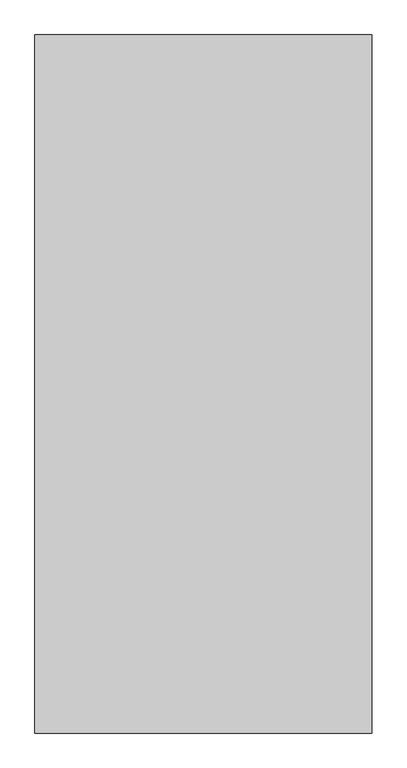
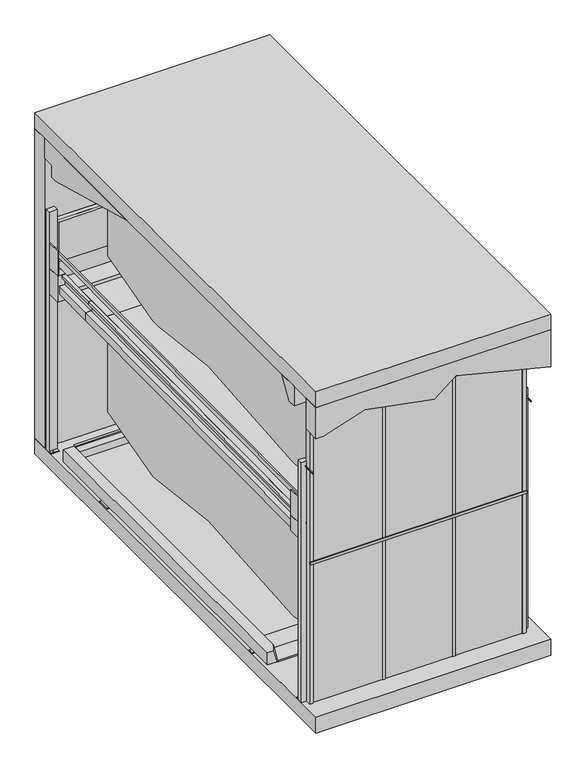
"""IFC4 building model written with IfcOpenShell, lengths in millimetres: proxy geometry, TrendVario 6200+ : TrendVario 6200+."""

from ifc_helpers import new_model, si_unit, point, frame, frame_2d, origin, origin_with_axes, place, context, project, spatial, polyline, circle_curve, trimmed, segment, composite_curve, outline, extrude, faceted_brep, source, transform, mapped, element, save
from ifc_brep_helpers import plane_surface, cylinder_surface, spline_surface, advanced_brep


def generic_models_85d4ead2(model_context):
    return source(origin(), model_context, "Body", "SolidModel", [
        extrude(outline(composite_curve([segment(trimmed(circle_curve(frame_2d((2650.0, 5300.0602659)), 6.0), [point((2650.0, 5294.0602659))], [point((2650.0, 5306.0602659))], False, "CARTESIAN"), True, "CONTINUOUS"), segment(trimmed(circle_curve(frame_2d((2650.0, 5300.0602659)), 6.0), [point((2650.0, 5306.0602659))], [point((2650.0, 5294.0602659))], False, "CARTESIAN"), True, "CONTINUOUS")], self_intersect=False)), frame((0.0, 0.0, -150.0), z_axis=(0.0, 0.0, 1.0), x_axis=(1.0, 0.0, 0.0)), (0.0, 0.0, 1.0), 150.0),
        extrude(outline(composite_curve([segment(trimmed(circle_curve(frame_2d((50.0, 5300.0602653)), 6.0), [point((44.0, 5300.0602653))], [point((56.0, 5300.0602653))], False, "CARTESIAN"), True, "CONTINUOUS"), segment(trimmed(circle_curve(frame_2d((50.0, 5300.0602653)), 6.0), [point((56.0, 5300.0602653))], [point((44.0, 5300.0602653))], False, "CARTESIAN"), True, "CONTINUOUS")], self_intersect=False)), frame((0.0, 0.0, -150.0), z_axis=(0.0, 0.0, 1.0), x_axis=(1.0, 0.0, 0.0)), (0.0, 0.0, 1.0), 150.0),
        extrude(outline(composite_curve([segment(trimmed(circle_curve(frame_2d((2650.0, 170.0)), 6.0), [point((2650.0, 164.0))], [point((2650.0, 176.0))], False, "CARTESIAN"), True, "CONTINUOUS"), segment(trimmed(circle_curve(frame_2d((2650.0, 170.0)), 6.0), [point((2650.0, 176.0))], [point((2650.0, 164.0))], False, "CARTESIAN"), True, "CONTINUOUS")], self_intersect=False)), frame((0.0, 0.0, -150.0), z_axis=(0.0, 0.0, 1.0), x_axis=(1.0, 0.0, 0.0)), (0.0, 0.0, 1.0), 150.0),
        extrude(outline(composite_curve([segment(trimmed(circle_curve(frame_2d((50.0, 170.0)), 6.0), [point((44.0, 170.0))], [point((56.0, 170.0))], False, "CARTESIAN"), True, "CONTINUOUS"), segment(trimmed(circle_curve(frame_2d((50.0, 170.0)), 6.0), [point((56.0, 170.0))], [point((44.0, 170.0))], False, "CARTESIAN"), True, "CONTINUOUS")], self_intersect=False)), frame((0.0, 0.0, -150.0), z_axis=(0.0, 0.0, 1.0), x_axis=(1.0, 0.0, 0.0)), (0.0, 0.0, 1.0), 150.0),
        extrude(outline(composite_curve([segment(trimmed(circle_curve(frame_2d((2965.0, 2650.0)), 6.0), [point((2965.0, 2644.0))], [point((2965.0, 2656.0))], False, "CARTESIAN"), True, "CONTINUOUS"), segment(trimmed(circle_curve(frame_2d((2965.0, 2650.0)), 6.0), [point((2965.0, 2656.0))], [point((2965.0, 2644.0))], False, "CARTESIAN"), True, "CONTINUOUS")], self_intersect=False)), frame((0.0, -50.0, 0.0), z_axis=(0.0, 1.0, 0.0), x_axis=(0.0, 0.0, 1.0)), (0.0, 0.0, 1.0), 150.0),
        extrude(outline(composite_curve([segment(trimmed(circle_curve(frame_2d((2965.0, 50.0)), 6.0), [point((2965.0, 44.0))], [point((2965.0, 56.0))], False, "CARTESIAN"), True, "CONTINUOUS"), segment(trimmed(circle_curve(frame_2d((2965.0, 50.0)), 6.0), [point((2965.0, 56.0))], [point((2965.0, 44.0))], False, "CARTESIAN"), True, "CONTINUOUS")], self_intersect=False)), frame((0.0, -50.0, 0.0), z_axis=(0.0, 1.0, 0.0), x_axis=(0.0, 0.0, 1.0)), (0.0, 0.0, 1.0), 150.0),
        extrude(outline(composite_curve([segment(trimmed(circle_curve(frame_2d((2965.0, 50.0)), 6.0), [point((2965.0, 44.0))], [point((2965.0, 56.0))], False, "CARTESIAN"), True, "CONTINUOUS"), segment(trimmed(circle_curve(frame_2d((2965.0, 50.0)), 6.0), [point((2965.0, 56.0))], [point((2965.0, 44.0))], False, "CARTESIAN"), True, "CONTINUOUS")], self_intersect=False)), frame((0.0, 5369.5816653, 0.0), z_axis=(0.0, 1.0, 0.0), x_axis=(0.0, 0.0, 1.0)), (0.0, 0.0, 1.0), 150.0),
        extrude(outline(composite_curve([segment(trimmed(circle_curve(frame_2d((2965.0, 2650.0)), 6.0), [point((2965.0, 2644.0))], [point((2965.0, 2656.0))], False, "CARTESIAN"), True, "CONTINUOUS"), segment(trimmed(circle_curve(frame_2d((2965.0, 2650.0)), 6.0), [point((2965.0, 2656.0))], [point((2965.0, 2644.0))], False, "CARTESIAN"), True, "CONTINUOUS")], self_intersect=False)), frame((0.0, 5369.6045102, 0.0), z_axis=(0.0, 1.0, 0.0), x_axis=(0.0, 0.0, 1.0)), (0.0, 0.0, 1.0), 150.0),
        extrude(outline(polyline([(0.0, -60.0), (0.0, 0.0), (4430.0, 0.0), (4430.0, -60.0), (0.0, -60.0)])), frame((2611.0, 171.9869847, 2038.264563), z_axis=(0.0, -0.008726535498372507, 0.9999619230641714), x_axis=(0.0, 0.9999619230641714, 0.008726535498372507)), (0.0, 0.0, 1.0), 100.0),
        extrude(outline(polyline([(0.0, -19.0), (0.0, 0.0), (4440.0, 0.0), (4440.0, -19.0), (0.0, -19.0)])), frame((2663.0, 167.9116926, 2505.246781), z_axis=(0.0, -0.008726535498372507, 0.9999619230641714), x_axis=(0.0, 0.9999619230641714, 0.008726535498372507)), (0.0, 0.0, 1.0), 56.0),
        faceted_brep([(2600.0, 4599.8286538, 2304.9144337), (2643.0, 4599.8286538, 2304.9144337), (2643.0, 4600.0904499, 2274.915576), (2640.0, 4600.0904499, 2274.915576), (2640.0, 4599.8548334, 2301.9145479), (2603.0, 4599.8548334, 2301.9145479), (2603.0, 4602.6211451, 1984.9266183), (2548.0, 4602.6211451, 1984.9266183), (2548.0, 4602.210998, 2031.9248287), (2511.0, 4602.210998, 2031.9248287), (2511.0, 4602.1848184, 2034.9247145), (2551.0, 4602.1848184, 2034.9247145), (2551.0, 4602.5949655, 1987.9265041), (2600.0, 4602.5949655, 1987.9265041), (2603.0, 102.7924914, 1945.6572086), (2603.0, 100.0261796, 2262.6451382), (2640.0, 100.0261796, 2262.6451382), (2640.0, 100.2617961, 2235.6461663), (2643.0, 100.2617961, 2235.6461663), (2643.0, 100.0, 2265.645024), (2600.0, 100.0, 2265.645024), (2600.0, 102.7924914, 1945.6572086), (2600.0, 202.7886837, 1946.5298621), (2548.0, 202.7886837, 1946.5298621), (2548.0, 202.3785365, 1993.5280725), (2511.0, 202.3785365, 1993.5280725), (2511.0, 202.3523569, 1996.5279583), (2551.0, 202.3523569, 1996.5279583), (2551.0, 202.7625041, 1949.5297479), (2600.0, 202.7625041, 1949.5297479)], [[[0, 1, 2, 3, 4, 5, 6, 7, 8, 9, 10, 11, 12, 13]], [[14, 15, 16, 17, 18, 19, 20, 21]], [[1, 0, 20, 19]], [[2, 1, 19, 18]], [[3, 2, 18, 17]], [[4, 3, 17, 16]], [[5, 4, 16, 15]], [[6, 5, 15, 14]], [[7, 6, 14, 21, 22, 23]], [[8, 7, 23, 24]], [[9, 8, 24, 25]], [[10, 9, 25, 26]], [[11, 10, 26, 27]], [[12, 11, 27, 28]], [[13, 12, 28, 29]], [[0, 13, 29, 22, 21, 20]], [[22, 29, 28, 27, 26, 25, 24, 23]]]),
        extrude(outline(polyline([(2133.867435, 0.0), (2133.867435, -1000.0), (-1962.132565, -1000.0), (-1962.132565, 0.0), (2133.867435, 0.0)])), frame((1600.0, 2468.3986345, 2016.3034445), z_axis=(0.0, -0.008726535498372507, 0.9999619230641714), x_axis=(0.0, 0.9999619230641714, 0.008726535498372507)), (0.0, 0.0, 1.0), 8.0),
        extrude(outline(polyline([(0.0, -1500.0), (0.0, 0.0), (769.9999999, 0.0), (769.9999999, -1500.0), (0.0, -1500.0)])), frame((100.0, 4602.1898877, 2034.9247587), z_axis=(0.0, -0.008726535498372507, 0.9999619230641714), x_axis=(0.0, 0.9999619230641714, 0.008726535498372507)), (0.0, 0.0, 1.0), 8.0),
        extrude(outline(polyline([(5133.7158509, 2091.5652956), (5371.7067886, 2093.642211), (5372.0907561, 2049.6438864), (5369.0908704, 2049.6177068), (5368.7330824, 2090.6161457), (5136.7419163, 2088.5915894), (5137.0997042, 2047.5931506), (5134.0998185, 2047.566971), (5133.7158509, 2091.5652956)])), frame((100.0, 0.0, 0.0), z_axis=(1.0, 0.0, 0.0), x_axis=(0.0, 1.0, 0.0)), (0.0, 0.0, 1.0), 1500.0),
        extrude(outline(polyline([(319.9999999, 0.0), (319.9999999, -43.0), (289.9999999, -43.0), (289.9999999, -40.0), (317.0, -40.0), (317.0, -3.0), (0.0, -3.0), (0.0, 52.0), (46.9999999, 52.0), (46.9999999, 89.0), (49.9999999, 89.0), (49.9999999, 49.0), (2.9999999, 49.0), (2.9999999, 0.0), (319.9999999, 0.0)])), frame((100.0, 4602.6262144, 1984.9266626), z_axis=(0.0, 0.9999619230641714, 0.008726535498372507), x_axis=(0.0, -0.008726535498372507, 0.9999619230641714)), (0.0, 0.0, 1.0), 770.0),
        extrude(outline(polyline([(200.0, 8.0), (200.0, 0.0), (100.0, 0.0), (100.0, 3025.0), (160.0, 3025.0), (160.0, 8.0), (200.0, 8.0)])), frame((0.0, 0.0, 0.0), z_axis=(1.0, 0.0, 0.0), x_axis=(0.0, 1.0, 0.0)), (0.0, 0.0, 1.0), 100.0),
        faceted_brep([(0.0, 5249.9885779, 3650.0), (2800.0, 5249.9885779, 3650.0), (2800.0, 5249.9885779, 3500.0), (0.0, 5249.9885779, 3500.0), (0.0, 5399.9657348, 3650.0), (2800.0, 5399.9657348, 3650.0), (2800.0, 5167.6820669, 3500.0), (2800.0, 3699.9673137, 3900.0057953), (0.0, 3699.9885779, 3900.0), (0.0, 5167.6820669, 3500.0), (2800.0, 5399.9657348, 3900.0), (0.0, 5399.9657348, 3900.0)], [[[0, 1, 2, 3]], [[1, 0, 4, 5]], [[6, 7, 8, 9]], [[10, 7, 6, 2, 1, 5]], [[8, 11, 4, 0, 3, 9]], [[11, 10, 5, 4]], [[7, 10, 11, 8]], [[2, 6, 9, 3]]]),
        extrude(outline(polyline([(3511.8273555, 0.0), (3511.8273555, 90.0080034), (3672.5161926, 584.5573919), (3511.8273555, 1411.229794), (3719.8801857, 1665.5456754), (3437.0289547, 2800.0), (3900.0, 2800.0), (3900.0, 0.0), (3511.8273555, 0.0)])), frame((0.0, -200.0, 0.0), z_axis=(0.0, 1.0, 0.0), x_axis=(0.0, 0.0, 1.0)), (0.0, 0.0, 1.0), 200.0),
        extrude(outline(polyline([(100.0, 45.0), (100.0, 55.0), (2600.0, 55.0), (2600.0, 45.0), (100.0, 45.0)])), origin_with_axes(), (0.0, 0.0, 1.0), 3526.0),
        extrude(outline(polyline([(1798.6666667, 44.0), (1798.6666667, 35.0), (1768.6666667, 35.0), (1768.6666667, 44.0), (1798.6666667, 44.0)])), origin_with_axes(), (0.0, 0.0, 1.0), 3526.0),
        extrude(outline(polyline([(964.3333333, 44.0), (964.3333333, 35.0), (934.3333333, 35.0), (934.3333333, 44.0), (964.3333333, 44.0)])), origin_with_axes(), (0.0, 0.0, 1.0), 3526.0),
        extrude(outline(polyline([(0.0, -19.0), (0.0, 0.0), (5147.1058324, 0.0), (5147.1058324, -19.0), (0.0, -19.0)])), frame((37.0, 5302.7546227, 2550.0578764), z_axis=(0.0, -0.008726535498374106, 0.9999619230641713), x_axis=(0.0, -0.9999619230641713, -0.008726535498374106)), (0.0, 0.0, 1.0), 56.0),
        extrude(outline(polyline([(18.0, 5142.5968952), (7.0, 5142.5968952), (7.0, 5312.5968952), (18.0, 5312.5968952), (18.0, 5142.5968952)])), frame((0.0, 0.0, 2319.0), z_axis=(0.0, 0.0, 1.0), x_axis=(1.0, 0.0, 0.0)), (0.0, 0.0, 1.0), 310.0),
        extrude(outline(polyline([(2682.0, 5142.0602659), (2682.0, 5312.0602659), (2693.0, 5312.0602659), (2693.0, 5142.0602659), (2682.0, 5142.0602659)])), frame((0.0, 0.0, 2319.0), z_axis=(0.0, 0.0, 1.0), x_axis=(1.0, 0.0, 0.0)), (0.0, 0.0, 1.0), 310.0),
        advanced_brep(
        [(2678.3930268, 838.0907234, 21.8284597), (2678.3930268, 838.0907234, 173.2797049), (2600.0, 838.0907234, 173.2797049), (2560.0, 838.0907234, 21.8284597), (2678.3930268, 5057.0907234, 21.8284597), (2550.0, 5057.0907234, 21.8284597), (2550.0, 5057.0907234, 173.2797049), (2678.3930268, 5057.0907234, 173.2797049), (2550.0, 938.0907234, 173.2797049), (2550.0, 848.0907234, 21.8284597)],
        [
            (0, 1),
            (1, 2),
            (2, 3),
            (3, 0),
            (4, 5),
            (5, 6),
            (6, 7),
            (7, 4),
            (0, 4),
            (7, 1),
            (6, 8),
            (8, 2),
            (5, 9),
            (9, 8),
            (3, 9),
        ],
        [
            plane_surface(frame((2550.0, 838.0907234, 0.0), z_axis=(0.0, -1.0, 0.0), x_axis=(0.0, 0.0, 1.0))),
            plane_surface(frame((2550.0, 5057.0907234, 0.0), z_axis=(0.0, 1.0, 0.0), x_axis=(0.0, 0.0, 1.0))),
            plane_surface(frame((2678.3930268, 838.0907234, 21.8284597), z_axis=(1.0, 0.0, 0.0), x_axis=(0.0, 1.0, 0.0))),
            plane_surface(frame((2678.3930268, 838.0907234, 173.2797049), z_axis=(0.0, 0.0, 1.0), x_axis=(0.0, 1.0, 0.0))),
            plane_surface(frame((2550.0, 838.0907234, 173.2797049), z_axis=(-1.0, 0.0, 0.0), x_axis=(0.0, 1.0, 0.0))),
            plane_surface(frame((2550.0, 838.0907234, 21.8284597), z_axis=(0.0, 0.0, -1.0), x_axis=(0.0, 1.0, 0.0))),
            spline_surface(1, 1, [[(2550.0, 938.0907234, 173.2797049), (2600.0, 838.0907234, 173.2797049)], [(2550.0, 848.0907234, 21.8284597), (2560.0, 838.0907234, 21.8284597)]], [2, 2], [2, 2], [0.0, 1.0], [0.0, 1.0]),
        ],
        [
            (0, [[1, 2, 3, 4]]),
            (1, [[5, 6, 7, 8]]),
            (2, [[-1, 9, -8, 10]]),
            (3, [[-7, 11, 12, -2, -10]]),
            (4, [[-6, 13, 14, -11]]),
            (5, [[-5, -9, -4, 15, -13]]),
            (6, [[-3, -12, -14, -15]]),
        ],
    ),
        advanced_brep(
        [(22.4384321, 838.0907234, 173.2797049), (22.4384321, 838.0907234, 20.8412855), (140.0, 838.0907234, 20.8412855), (100.0, 838.0907234, 173.2797049), (150.0, 5057.0907234, 20.8412855), (22.4384321, 5057.0907234, 20.8412855), (22.4384321, 5057.0907234, 173.2797049), (150.0, 5057.0907234, 173.2797049), (150.0, 938.0907234, 173.2797049), (150.0, 848.0907234, 20.8412855)],
        [
            (0, 1),
            (1, 2),
            (2, 3),
            (3, 0),
            (4, 5),
            (5, 6),
            (6, 7),
            (7, 4),
            (7, 8),
            (8, 9),
            (9, 4),
            (6, 0),
            (3, 8),
            (5, 1),
            (9, 2),
        ],
        [
            plane_surface(frame((150.0, 838.0907234, 20.8412855), z_axis=(0.0, -1.0, 0.0), x_axis=(0.0, 0.0, 1.0))),
            plane_surface(frame((150.0, 5057.0907234, 20.8412855), z_axis=(0.0, 1.0, 0.0), x_axis=(0.0, 0.0, -1.0))),
            plane_surface(frame((150.0, 838.0907234, 20.8412855), z_axis=(1.0, 0.0, 0.0), x_axis=(0.0, 1.0, 0.0))),
            plane_surface(frame((150.0, 838.0907234, 173.2797049), z_axis=(0.0, 0.0, 1.0), x_axis=(0.0, 1.0, 0.0))),
            plane_surface(frame((22.4384321, 838.0907234, 173.2797049), z_axis=(-1.0, 0.0, 0.0), x_axis=(0.0, 1.0, 0.0))),
            plane_surface(frame((22.4384321, 838.0907234, 20.8412855), z_axis=(0.0, 0.0, -1.0), x_axis=(0.0, 1.0, 0.0))),
            spline_surface(1, 1, [[(150.0, 848.0907234, 20.8412855), (140.0, 838.0907234, 20.8412855)], [(150.0, 938.0907234, 173.2797049), (100.0, 838.0907234, 173.2797049)]], [2, 2], [2, 2], [0.0, 1.0], [0.0, 1.0]),
        ],
        [
            (0, [[1, 2, 3, 4]]),
            (1, [[5, 6, 7, 8]]),
            (2, [[-8, 9, 10, 11]]),
            (3, [[-7, 12, -4, 13, -9]]),
            (4, [[-1, -12, -6, 14]]),
            (5, [[-5, -11, 15, -2, -14]]),
            (6, [[-3, -15, -10, -13]]),
        ],
    ),
        extrude(outline(polyline([(5369.6045102, 0.0), (5270.0602659, 0.0), (5270.0602659, 8.0), (5310.0602659, 8.0), (5310.0602659, 3025.0), (5369.6045102, 3025.0), (5369.6045102, 0.0)])), frame((2600.0, 0.0, 0.0), z_axis=(1.0, 0.0, 0.0), x_axis=(0.0, 1.0, 0.0)), (0.0, 0.0, 1.0), 100.0),
        extrude(outline(polyline([(5269.5968952, 0.0), (5269.5968952, 8.0), (5309.5968952, 8.0), (5309.5968952, 3025.0), (5369.5968952, 3025.0), (5369.5968952, 0.0), (5269.5968952, 0.0)])), frame((0.0, 0.0, 0.0), z_axis=(1.0, 0.0, 0.0), x_axis=(0.0, 1.0, 0.0)), (0.0, 0.0, 1.0), 100.0),
        advanced_brep(
        [(650.0, 5220.0526533, 335.5997321), (650.0, 4313.3699728, 92.6548401), (650.0, 4224.7221662, 85.0351129), (650.0, 3145.3807126, 219.0), (650.0, 1424.180165, 85.3914386), (650.0, 1340.4923675, 90.5100035), (650.0, 220.4923675, 349.0823776), (650.0, 220.4923675, 1334.0), (650.0, 520.4923675, 1884.0), (650.0, 3620.0831131, 1884.0000002), (650.0, 5220.0526556, 1434.0085664), (2550.0, 220.4923675, 349.0823776), (2550.0, 1340.4923675, 90.5100035), (2550.0, 1424.180165, 85.3914386), (2550.0, 3145.3807126, 219.0), (2550.0, 4224.7221662, 85.0351129), (2550.0, 4313.3699728, 92.6548401), (2550.0, 5220.0526533, 335.5997321), (2550.0, 5220.0526556, 1434.0085664), (2550.0, 3620.0831131, 1884.0000002), (2550.0, 520.4923675, 1884.0), (2550.0, 220.4923675, 1334.0)],
        [
            (0, 1),
            (1, 2, circle_curve(frame((650.0, 4247.6299354, 338.0), z_axis=(-1.0, 0.0, 0.0), x_axis=(0.0, 1.0, 0.0)), 254.0)),
            (2, 3),
            (3, 4),
            (4, 5, circle_curve(frame((650.0, 1397.6299354, 338.0), z_axis=(-1.0, 0.0, 0.0), x_axis=(0.0, 1.0, 0.0)), 254.0)),
            (5, 6),
            (6, 7),
            (7, 8),
            (8, 9),
            (9, 10),
            (10, 0),
            (11, 12),
            (12, 13, circle_curve(frame((2550.0, 1397.6299354, 338.0), z_axis=(1.0, 0.0, 0.0), x_axis=(0.0, 1.0, 0.0)), 254.0)),
            (13, 14),
            (14, 15),
            (15, 16, circle_curve(frame((2550.0, 4247.6299354, 338.0), z_axis=(1.0, 0.0, 0.0), x_axis=(0.0, 1.0, 0.0)), 254.0)),
            (16, 17),
            (17, 18),
            (18, 19),
            (19, 20),
            (20, 21),
            (21, 11),
            (17, 0),
            (10, 18),
            (16, 1),
            (15, 2),
            (14, 3),
            (13, 4),
            (12, 5),
            (11, 6),
            (21, 7),
            (9, 19),
            (8, 20),
        ],
        [
            plane_surface(frame((650.0, 220.4923675, 0.0), z_axis=(-1.0, 0.0, 0.0), x_axis=(0.0, 0.0, 1.0))),
            plane_surface(frame((2550.0, 220.4923675, 0.0), z_axis=(1.0, 0.0, 0.0), x_axis=(0.0, 0.0, 1.0))),
            plane_surface(frame((650.0, 5220.0526533, 1105.8846371), z_axis=(0.0, 1.0, 0.0), x_axis=(1.0, 0.0, 0.0))),
            plane_surface(frame((650.0, 5220.0526533, 335.5997321), z_axis=(0.0, 0.25881904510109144, -0.9659258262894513), x_axis=(1.0, 0.0, 0.0))),
            cylinder_surface(frame((650.0, 4247.6299354, 338.0), z_axis=(-1.0, 0.0, 0.0), x_axis=(0.0, 1.0, 0.0)), 254.0),
            plane_surface(frame((650.0, 4224.7221662, 85.0351129), z_axis=(0.0, -0.12317213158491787, -0.992385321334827), x_axis=(1.0, 0.0, 0.0))),
            plane_surface(frame((650.0, 3145.3807126, 219.0), z_axis=(0.0, 0.07739239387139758, -0.9970007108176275), x_axis=(1.0, 0.0, 0.0))),
            cylinder_surface(frame((650.0, 1397.6299354, 338.0), z_axis=(-1.0, 0.0, 0.0), x_axis=(0.0, 1.0, 0.0)), 254.0),
            plane_surface(frame((650.0, 1340.4923675, 90.5100035), z_axis=(0.0, -0.22495105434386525, -0.9743700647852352), x_axis=(1.0, 0.0, 0.0))),
            plane_surface(frame((650.0, 220.4923675, 349.0823776), z_axis=(0.0, -1.0, 0.0), x_axis=(1.0, 0.0, 0.0))),
            plane_surface(frame((650.0, 3620.0831131, 1884.0000002), z_axis=(0.0, 0.27074557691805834, 0.9626509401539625), x_axis=(1.0, 0.0, 0.0))),
            plane_surface(frame((650.0, 620.4885622, 1884.0000002), z_axis=(0.0, 0.0, 1.0), x_axis=(1.0, 0.0, 0.0))),
            plane_surface(frame((650.0, 220.4923675, 1334.0), z_axis=(0.0, -0.8778955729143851, 0.478852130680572), x_axis=(1.0, 0.0, 0.0))),
        ],
        [
            (0, [[1, 2, 3, 4, 5, 6, 7, 8, 9, 10, 11]]),
            (1, [[12, 13, 14, 15, 16, 17, 18, 19, 20, 21, 22]]),
            (2, [[23, -11, 24, -18]]),
            (3, [[-1, -23, -17, 25]]),
            (4, [[-2, -25, -16, 26]]),
            (5, [[-3, -26, -15, 27]]),
            (6, [[-4, -27, -14, 28]]),
            (7, [[-5, -28, -13, 29]]),
            (8, [[-6, -29, -12, 30]]),
            (9, [[-7, -30, -22, 31]]),
            (10, [[-10, 32, -19, -24]]),
            (11, [[-20, -32, -9, 33]]),
            (12, [[-8, -31, -21, -33]]),
        ],
    ),
        advanced_brep(
        [(650.0080034, 219.0783305, 2530.0), (650.0080034, 212.7549246, 3254.5905482), (650.0080034, 507.9448535, 3807.0791047), (650.0080034, 614.5742843, 3808.0096456), (650.0080034, 616.0660458, 3810.8016825), (650.0080034, 3620.0751529, 3837.0172728), (650.0080034, 5220.0526533, 3400.9650555), (650.0080034, 5220.0602659, 2299.8475577), (650.0080034, 4315.7898833, 2049.0711861), (650.0080034, 4227.211946, 2040.6781608), (650.0080034, 3146.7425411, 2165.2190354), (650.0080034, 1426.7734714, 2016.5954437), (650.0080034, 1343.0441931, 2020.9835093), (650.0080034, 226.8699728, 2268.4333765), (650.0080034, 224.5873155, 2530.0), (2550.0080034, 507.9448535, 3807.0791047), (2550.0080034, 212.7549245, 3254.5905482), (2550.0080034, 219.0783305, 2530.0), (2550.0080034, 224.5873155, 2530.0), (2550.0080034, 226.8699728, 2268.4333765), (2550.0080034, 1343.0441931, 2020.9835093), (2550.0080034, 1426.7734714, 2016.5954437), (2550.0080034, 3146.7425411, 2165.2190354), (2550.0080034, 4227.211946, 2040.6781608), (2550.0080034, 4315.7898833, 2049.0711861), (2550.0080034, 5220.0602659, 2299.8475577), (2550.0080034, 5220.0526533, 3400.9650555), (2550.0080034, 3620.0751529, 3837.0172728), (2550.0080034, 616.0660458, 3810.8016825), (2550.0080034, 614.5742843, 3808.0096456)],
        [
            (0, 1),
            (1, 2),
            (2, 3),
            (3, 4),
            (4, 5),
            (5, 6),
            (6, 7),
            (7, 8),
            (8, 9, circle_curve(frame((650.0080034, 4247.9113358, 2293.8333213), z_axis=(-1.0, 6.846874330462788e-12, 0.0), x_axis=(6.846340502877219e-12, 0.9999619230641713, 0.008726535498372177)), 254.0)),
            (9, 10),
            (10, 11),
            (11, 12, circle_curve(frame((650.0080034, 1398.0198551, 2268.9626951), z_axis=(-1.0, 6.846874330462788e-12, 0.0), x_axis=(6.846340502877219e-12, 0.9999619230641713, 0.008726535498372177)), 254.0)),
            (12, 13),
            (13, 14),
            (14, 0),
            (15, 16),
            (16, 17),
            (17, 18),
            (18, 19),
            (19, 20),
            (20, 21, circle_curve(frame((2550.0080034, 1398.0198551, 2268.9626951), z_axis=(1.0, -6.846874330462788e-12, 0.0), x_axis=(6.846340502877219e-12, 0.9999619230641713, 0.008726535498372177)), 254.0)),
            (21, 22),
            (22, 23),
            (23, 24, circle_curve(frame((2550.0080034, 4247.9113358, 2293.8333213), z_axis=(1.0, -6.846874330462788e-12, 0.0), x_axis=(6.846340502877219e-12, 0.9999619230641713, 0.008726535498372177)), 254.0)),
            (24, 25),
            (25, 26),
            (26, 27),
            (27, 28),
            (28, 29),
            (29, 15),
            (2, 15),
            (29, 3),
            (1, 16),
            (17, 0),
            (14, 18),
            (4, 28),
            (27, 5),
            (26, 6),
            (25, 7),
            (24, 8),
            (23, 9),
            (22, 10),
            (21, 11),
            (20, 12),
            (19, 13),
        ],
        [
            plane_surface(frame((650.0080034, 428.8717402, 3900.0), z_axis=(-1.0, 6.846035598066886e-12, 0.0), x_axis=(0.0, 0.0, 1.0))),
            plane_surface(frame((2550.0080034, 428.8717402, 3900.0), z_axis=(1.0, -6.846035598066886e-12, 0.0), x_axis=(0.0, 0.0, 1.0))),
            plane_surface(frame((650.0080034, 507.9448535, 3807.0791047), z_axis=(0.0, -0.008726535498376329, 0.9999619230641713), x_axis=(1.0, -6.846035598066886e-12, 0.0))),
            plane_surface(frame((650.0080034, 212.7549246, 3254.5905482), z_axis=(-6.038215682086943e-12, -0.8820017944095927, 0.4712460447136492), x_axis=(1.0, -6.846035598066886e-12, 0.0))),
            plane_surface(frame((650.0080034, 4789.9238543, 2530.0), z_axis=(0.0, 0.0, -1.0), x_axis=(1.0, -6.845999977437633e-12, 0.0))),
            plane_surface(frame((650.0080034, 219.0783305, 2530.0), z_axis=(-6.845774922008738e-12, -0.9999619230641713, -0.008726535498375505), x_axis=(1.0, -6.846035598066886e-12, 0.0))),
            plane_surface(frame((650.0080034, 616.0660458, 3810.8016825), z_axis=(0.0, -0.008726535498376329, 0.9999619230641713), x_axis=(1.0, -6.845999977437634e-12, 0.0))),
            plane_surface(frame((650.0080034, 3620.0751529, 3837.0172728), z_axis=(1.8001286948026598e-12, 0.2629460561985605, 0.9648105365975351), x_axis=(1.0, -6.845999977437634e-12, 0.0))),
            plane_surface(frame((650.0080034, 320.8761169, 3258.313126), z_axis=(-6.0382156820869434e-12, -0.8820017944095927, 0.4712460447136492), x_axis=(1.0, -6.846035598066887e-12, 0.0))),
            plane_surface(frame((650.0080034, 5220.0526533, 3400.9650555), z_axis=(6.845999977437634e-12, 1.0, 0.0), x_axis=(1.0, -6.845999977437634e-12, 0.0))),
            plane_surface(frame((2550.0080034, 4315.7898833, 2049.0711861), z_axis=(1.7721223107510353e-12, 0.26723837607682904, -0.963630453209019), x_axis=(-1.0, 6.8459999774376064e-12, 0.0))),
            cylinder_surface(frame((2550.0080034, 4247.9113358, 2293.8333213), z_axis=(1.0, -6.846874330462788e-12, 0.0), x_axis=(6.846340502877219e-12, 0.9999619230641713, 0.008726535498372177)), 254.0),
            plane_surface(frame((2550.0080034, 3146.7425411, 2165.2190354), z_axis=(0.0, -0.11450735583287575, -0.9934224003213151), x_axis=(-1.0, 6.845999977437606e-12, 0.0))),
            plane_surface(frame((2550.0080034, 1426.7734714, 2016.5954437), z_axis=(0.0, 0.08608980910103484, -0.9962873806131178), x_axis=(-1.0, 6.845999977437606e-12, 0.0))),
            cylinder_surface(frame((2550.0080034, 1398.0198551, 2268.9626951), z_axis=(1.0, -6.846874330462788e-12, 0.0), x_axis=(6.846340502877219e-12, 0.9999619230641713, 0.008726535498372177)), 254.0),
            plane_surface(frame((2550.0080034, 226.8699728, 2268.4333765), z_axis=(-1.5398915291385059e-12, -0.21643961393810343, -0.9762960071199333), x_axis=(-1.0, 6.845999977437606e-12, 0.0))),
            plane_surface(frame((2550.0080034, 220.9776342, 2943.6285041), z_axis=(-6.8462590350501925e-12, -0.9999619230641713, -0.00872653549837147), x_axis=(-1.0, 6.845999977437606e-12, 0.0))),
        ],
        [
            (0, [[1, 2, 3, 4, 5, 6, 7, 8, 9, 10, 11, 12, 13, 14, 15]]),
            (1, [[16, 17, 18, 19, 20, 21, 22, 23, 24, 25, 26, 27, 28, 29, 30]]),
            (2, [[31, -30, 32, -3]]),
            (3, [[-2, 33, -16, -31]]),
            (4, [[34, -15, 35, -18]]),
            (5, [[-1, -34, -17, -33]]),
            (6, [[-5, 36, -28, 37]]),
            (7, [[-6, -37, -27, 38]]),
            (8, [[-36, -4, -32, -29]]),
            (9, [[-7, -38, -26, 39]]),
            (10, [[-25, 40, -8, -39]]),
            (11, [[-24, 41, -9, -40]]),
            (12, [[-23, 42, -10, -41]]),
            (13, [[-22, 43, -11, -42]]),
            (14, [[-21, 44, -12, -43]]),
            (15, [[-20, 45, -13, -44]]),
            (16, [[-45, -19, -35, -14]]),
        ],
    ),
        extrude(outline(polyline([(1798.6666667, 35.0), (1768.6666667, 35.0), (1768.6666667, 44.0), (1798.6666667, 44.0), (1798.6666667, 35.0)])), origin_with_axes(), (0.0, 0.0, 1.0), 3526.0),
        extrude(outline(polyline([(964.3333333, 35.0), (934.3333333, 35.0), (934.3333333, 44.0), (964.3333333, 44.0), (964.3333333, 35.0)])), origin_with_axes(), (0.0, 0.0, 1.0), 3526.0),
        extrude(outline(polyline([(700.0, 5369.6045096), (700.0, 5284.6045096), (100.0, 5284.6045096), (100.0, 5369.6045096), (700.0, 5369.6045096)])), frame((0.0, 0.0, 2379.0), z_axis=(0.0, 0.0, 1.0), x_axis=(1.0, 0.0, 0.0)), (0.0, 0.0, 1.0), 500.0),
        extrude(outline(polyline([(250.0, 3650.0), (250.0, 3900.0), (500.0, 3900.0), (349.6363636, 3650.0), (250.0, 3650.0)])), frame((0.0, 0.0, 0.0), z_axis=(1.0, 0.0, 0.0), x_axis=(0.0, 1.0, 0.0)), (0.0, 0.0, 1.0), 2800.0),
        extrude(outline(polyline([(60.0, 32.0), (60.0, 100.0), (2640.0, 100.0), (2640.0, 32.0), (60.0, 32.0)])), frame((0.0, 0.0, 3526.0), z_axis=(0.0, 0.0, 1.0), x_axis=(1.0, 0.0, 0.0)), (0.0, 0.0, 1.0), 74.0),
        extrude(outline(polyline([(60.0, 20.0), (60.0, 34.0), (2640.0, 34.0), (2640.0, 20.0), (60.0, 20.0)])), frame((0.0, 0.0, 1763.0), z_axis=(0.0, 0.0, 1.0), x_axis=(1.0, 0.0, 0.0)), (0.0, 0.0, 1.0), 30.0),
        extrude(outline(polyline([(2640.0, 32.0), (2600.0, 32.0), (2600.0, 100.0), (2640.0, 100.0), (2640.0, 32.0)])), origin_with_axes(), (0.0, 0.0, 1.0), 3526.0),
        extrude(outline(polyline([(100.0, 32.0), (60.0, 32.0), (60.0, 100.0), (100.0, 100.0), (100.0, 32.0)])), origin_with_axes(), (0.0, 0.0, 1.0), 3526.0),
        extrude(outline(polyline([(0.0, -19.0), (0.0, 0.0), (702.4860602, 0.0), (702.4860602, -19.0), (0.0, -19.0)])), frame((2682.0, 5310.2019427, 2550.1228682), z_axis=(0.0, -0.008726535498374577, 0.9999619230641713), x_axis=(0.0, -0.9999619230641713, -0.008726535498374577)), (0.0, 0.0, 1.0), 56.0),
        extrude(outline(polyline([(0.0, -59.9999949), (0.0, 0.0), (622.0497333, 0.0), (622.0497333, -59.9999949), (0.0, -59.9999949)])), frame((2610.9999948, 4601.8183039, 2076.9231152), z_axis=(0.0, -0.00872653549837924, 0.9999619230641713), x_axis=(0.0, 0.9999619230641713, 0.00872653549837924)), (0.0, 0.0, 1.0), 100.0),
        extrude(outline(polyline([(0.0, -60.0), (0.0, 0.0), (4430.0, 0.0), (4430.0, -60.0), (0.0, -60.0)])), frame((29.0, 171.9869847, 2038.264563), z_axis=(0.0, -0.008726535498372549, 0.9999619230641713), x_axis=(0.0, 0.9999619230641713, 0.008726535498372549)), (0.0, 0.0, 1.0), 100.0),
        extrude(outline(polyline([(0.0, -60.0), (0.0, 0.0), (585.0, 0.0), (585.0, -60.0), (0.0, -60.0)])), frame((29.0, 4601.8233732, 2076.9231595), z_axis=(0.0, -0.008726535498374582, 0.9999619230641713), x_axis=(0.0, 0.9999619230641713, 0.008726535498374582)), (0.0, 0.0, 1.0), 100.0),
        extrude(outline(polyline([(5312.0602659, 1991.0934303), (5142.0602659, 1989.6098628), (5142.0602659, 2314.0), (5312.0602659, 2314.0), (5312.0602659, 1991.0934303)])), frame((2603.0, 0.0, 0.0), z_axis=(1.0, 0.0, 0.0), x_axis=(0.0, 1.0, 0.0)), (0.0, 0.0, 1.0), 90.0),
        extrude(outline(polyline([(5142.5968952, 1989.6145459), (5142.5968952, 2314.0), (5312.5968952, 2314.0), (5312.5968952, 1991.0981134), (5142.5968952, 1989.6145459)])), frame((7.0, 0.0, 0.0), z_axis=(1.0, 0.0, 0.0), x_axis=(0.0, 1.0, 0.0)), (0.0, 0.0, 1.0), 90.0),
        extrude(outline(polyline([(7.0, 160.0), (7.0, 330.0), (18.0, 330.0), (18.0, 160.0), (7.0, 160.0)])), frame((0.0, 0.0, 2229.0), z_axis=(0.0, 0.0, 1.0), x_axis=(1.0, 0.0, 0.0)), (0.0, 0.0, 1.0), 315.0),
        extrude(outline(polyline([(7.0, 160.0), (7.0, 330.0), (97.0, 330.0), (97.0, 160.0), (7.0, 160.0)])), frame((0.0, 0.0, 2029.0), z_axis=(0.0, 0.0, 1.0), x_axis=(1.0, 0.0, 0.0)), (0.0, 0.0, 1.0), 195.0),
        extrude(outline(polyline([(2693.0, 330.0), (2693.0, 160.0), (2682.0, 160.0), (2682.0, 330.0), (2693.0, 330.0)])), frame((0.0, 0.0, 2229.0), z_axis=(0.0, 0.0, 1.0), x_axis=(1.0, 0.0, 0.0)), (0.0, 0.0, 1.0), 315.0),
        extrude(outline(polyline([(2693.0, 330.0), (2693.0, 160.0), (2603.0, 160.0), (2603.0, 330.0), (2693.0, 330.0)])), frame((0.0, 0.0, 2029.0), z_axis=(0.0, 0.0, 1.0), x_axis=(1.0, 0.0, 0.0)), (0.0, 0.0, 1.0), 195.0),
        extrude(outline(polyline([(100.0, 0.0), (100.0, 3025.0), (160.0, 3025.0), (160.0, 8.0), (200.0, 8.0), (200.0, 0.0), (100.0, 0.0)])), frame((2600.0, 0.0, 0.0), z_axis=(1.0, 0.0, 0.0), x_axis=(0.0, 1.0, 0.0)), (0.0, 0.0, 1.0), 100.0),
        extrude(outline(polyline([(2603.0, 5372.5968952), (2603.0, 5319.5968952), (97.0, 5319.5968952), (97.0, 5372.5968952), (2603.0, 5372.5968952)])), frame((0.0, 0.0, 2854.0), z_axis=(0.0, 0.0, 1.0), x_axis=(1.0, 0.0, 0.0)), (0.0, 0.0, 1.0), 25.0),
        extrude(outline(polyline([(2603.0, 140.0), (2603.0, 87.0), (100.0, 87.0), (100.0, 140.0), (2603.0, 140.0)])), frame((0.0, 0.0, 2854.0), z_axis=(0.0, 0.0, 1.0), x_axis=(1.0, 0.0, 0.0)), (0.0, 0.0, 1.0), 25.0),
        extrude(outline(polyline([(0.0, 1119.5968952), (0.0, 1179.5968952), (2800.0, 1179.5968952), (2800.0, 1119.5968952), (0.0, 1119.5968952)])), origin_with_axes(), (0.0, 0.0, 1.0), 15.0),
        extrude(outline(polyline([(0.0, 4119.5968952), (0.0, 4265.5968952), (2800.0, 4265.5968952), (2800.0, 4119.5968952), (0.0, 4119.5968952)])), origin_with_axes(), (0.0, 0.0, 1.0), 15.0),
        extrude(outline(polyline([(2800.0, 5399.9657348), (0.0, 5399.9657348), (0.0, 5599.9961923), (2800.0, 5599.9961923), (2800.0, 5399.9657348)])), origin_with_axes(), (0.0, 0.0, 1.0), 3900.0),
        faceted_brep([(100.0, 4599.8336906, 2304.9182049), (100.0, 4602.6000023, 1987.9302753), (149.0, 4602.6000023, 1987.9302753), (149.0, 4602.1898551, 2034.9284857), (189.0, 4602.1898551, 2034.9284857), (189.0, 4602.2160348, 2031.9285999), (152.0, 4602.2160348, 2031.9285999), (152.0, 4602.6261819, 1984.9303895), (97.0, 4602.6261819, 1984.9303895), (97.0, 4599.8598702, 2301.9183191), (60.0, 4599.8598702, 2301.9183191), (60.0, 4600.0954866, 2274.9193472), (57.0, 4600.0954866, 2274.9193472), (57.0, 4599.8336906, 2304.9182049), (100.0, 100.0, 1945.6365661), (100.0, 97.2075086, 2265.6243815), (57.0, 97.2075086, 2265.6243815), (57.0, 97.4693047, 2235.6255238), (60.0, 97.4693047, 2235.6255238), (60.0, 97.2336882, 2262.6244957), (97.0, 97.2336882, 2262.6244957), (97.0, 100.0, 1945.6365661), (100.0, 199.9961923, 1946.5092197), (100.0, 199.9700127, 1949.5091054), (149.0, 199.9700127, 1949.5091054), (149.0, 199.5598655, 1996.5073158), (189.0, 199.5598655, 1996.5073158), (189.0, 199.5860451, 1993.50743), (152.0, 199.5860451, 1993.50743), (152.0, 199.9961923, 1946.5092197)], [[[0, 1, 2, 3, 4, 5, 6, 7, 8, 9, 10, 11, 12, 13]], [[14, 15, 16, 17, 18, 19, 20, 21]], [[1, 0, 15, 14, 22, 23]], [[2, 1, 23, 24]], [[3, 2, 24, 25]], [[4, 3, 25, 26]], [[5, 4, 26, 27]], [[6, 5, 27, 28]], [[7, 6, 28, 29]], [[8, 7, 29, 22, 14, 21]], [[9, 8, 21, 20]], [[10, 9, 20, 19]], [[11, 10, 19, 18]], [[12, 11, 18, 17]], [[13, 12, 17, 16]], [[0, 13, 16, 15]], [[23, 22, 29, 28, 27, 26, 25, 24]]]),
        extrude(outline(polyline([(506.3333687, 2021.7621074), (506.6824301, 1981.7636305), (503.6825444, 1981.7374509), (503.3596625, 2018.736042), (261.7372106, 2016.6274348), (105.9840281, 1973.4332545), (112.3977491, 1950.3061236), (133.5976191, 1956.1853679), (134.3993342, 1953.2944765), (110.3085729, 1946.6135171), (102.2914216, 1975.5224307), (261.3160886, 2019.623874), (506.3333687, 2021.7621074)])), frame((100.0, 0.0, 0.0), z_axis=(1.0, 0.0, 0.0), x_axis=(0.0, 1.0, 0.0)), (0.0, 0.0, 1.0), 2500.0),
        extrude(outline(polyline([(2800.0, -200.0), (0.0, -200.0), (0.0, 5599.9961923), (2800.0, 5599.9961923), (2800.0, -200.0)])), frame((0.0, 0.0, -200.0), z_axis=(0.0, 0.0, 1.0), x_axis=(1.0, 0.0, 0.0)), (0.0, 0.0, 1.0), 200.0),
        extrude(outline(polyline([(2800.0, -200.0), (0.0, -200.0), (0.0, 5600.5968952), (2800.0, 5600.5968952), (2800.0, -200.0)])), frame((0.0, 0.0, 3900.0), z_axis=(0.0, 0.0, 1.0), x_axis=(1.0, 0.0, 0.0)), (0.0, 0.0, 1.0), 200.0),
        extrude(outline(polyline([(319.9719044, 0.0), (2.9719045, 0.0), (2.9719045, -49.0), (49.9719044, -49.0), (49.9719044, -89.0), (46.9719044, -89.0), (46.9719044, -52.0), (-0.0280956, -52.0), (-0.0280956, 3.0), (316.9719044, 3.0), (316.9719044, 40.0), (289.9719044, 40.0), (289.9719044, 43.0), (319.9719044, 43.0), (319.9719044, 0.0)])), frame((2600.0, 4602.6209, 1984.9303434), z_axis=(0.0, 0.9999619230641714, 0.008726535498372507), x_axis=(0.0, -0.008726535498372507, 0.9999619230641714)), (0.0, 0.0, 1.0), 770.0052822),
        extrude(outline(polyline([(100.4126792, 0.0), (100.4126792, -767.6410141), (-899.5873208, -767.6410141), (-899.5873208, 0.0), (100.4126792, 0.0)])), frame((2499.5873208, 5369.3942892, 2041.6200501), z_axis=(0.0, -0.008726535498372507, 0.9999619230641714), x_axis=(1.0, 0.0, 0.0)), (0.0, 0.0, 1.0), 8.0),
        extrude(outline(polyline([(5037.0953055, 61.9124781), (5034.8282574, 36.0), (4939.0907234, 36.0), (4939.0907234, 179.0), (5026.0907234, 179.0), (5026.0907234, 194.0), (5057.0907234, 194.0), (5057.0907234, 191.0), (5029.0907234, 191.0), (5029.0907234, 176.0), (4942.0907234, 176.0), (4942.0907234, 39.0), (5032.0792639, 39.0), (5034.1067214, 62.1739453), (5037.0953055, 61.9124781)])), frame((150.0, 0.0, 0.0), z_axis=(1.0, 0.0, 0.0), x_axis=(0.0, 1.0, 0.0)), (0.0, 0.0, 1.0), 2400.0),
        extrude(outline(polyline([(4329.2949793, 97.0604952), (4239.0907234, 97.0604952), (4239.0907234, 132.0604952), (4258.9285037, 186.5643505), (4264.5666594, 184.5122296), (4245.0907234, 131.0025334), (4245.0907234, 103.0604952), (4329.2949793, 103.0604952), (4329.2949793, 97.0604952)])), frame((1599.0959702, 0.0, 0.0), z_axis=(1.0, 0.0, 0.0), x_axis=(0.0, 1.0, 0.0)), (0.0, 0.0, 1.0), 950.9040298),
        extrude(outline(polyline([(1238.4657342, 84.0), (1238.4657342, 44.0), (1235.4657342, 44.0), (1235.4657342, 81.0), (993.8340817, 81.0), (837.7098942, 39.16665), (843.9215513, 15.9844302), (865.1719195, 21.6784492), (865.9483766, 18.7806717), (841.800231, 12.3101956), (834.0356596, 41.2879704), (993.4391242, 84.0), (1238.4657342, 84.0)])), frame((150.0, 0.0, 0.0), z_axis=(1.0, 0.0, 0.0), x_axis=(0.0, 1.0, 0.0)), (0.0, 0.0, 1.0), 2400.0),
        extrude(outline(polyline([(150.0, 1238.4657342), (150.0, 4939.0907234), (2550.0, 4939.0907234), (2550.0, 1238.4657342), (150.0, 1238.4657342)])), frame((0.0, 0.0, 79.0), z_axis=(0.0, 0.0, 1.0), x_axis=(1.0, 0.0, 0.0)), (0.0, 0.0, 1.0), 5.0),
        extrude(outline(polyline([(5371.6762983, 2093.6456722), (5372.0602659, 2049.6473476), (5369.0603801, 2049.621168), (5368.7025922, 2090.6196068), (5136.711426, 2088.5950506), (5137.069214, 2047.5966117), (5134.0693282, 2047.5704321), (5133.6853606, 2091.5687567), (5371.6762983, 2093.6456722)])), frame((1600.0, 0.0, 0.0), z_axis=(1.0, 0.0, 0.0), x_axis=(0.0, 1.0, 0.0)), (0.0, 0.0, 1.0), 1000.0),
        extrude(outline(polyline([(2038.9337722, 0.0), (2038.9337722, -1500.0), (-2056.8816536, -1500.0), (-2056.8816536, 0.0), (2038.9337722, 0.0)])), frame((1600.0, 2545.3865539, 2016.9753079), z_axis=(0.0, -0.008726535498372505, 0.9999619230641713), x_axis=(0.0, -0.9999619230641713, -0.008726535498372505)), (0.0, 0.0, 1.0), 8.0),
    ])


if __name__ == "__main__":
    model = new_model("IFC4")
    model_context = context("Model", 3, world=origin())
    ifc_project = project(units=[si_unit("LENGTHUNIT", "METRE", prefix="MILLI")], contexts=[model_context])
    site = spatial("IfcSite", under=ifc_project)
    building = spatial("IfcBuilding", under=site)
    placement = place(None, origin())
    generic_models_shape = generic_models_85d4ead2(model_context)
    element("IfcBuildingElementProxy", 1, Name="TrendVario 6200+ : TrendVario 6200+", ObjectType="TrendVario 6200+ : TrendVario 6200+", at=placement, inside=building, context=model_context, shape_type="MappedRepresentation", body=[
        mapped(generic_models_shape, transform((0.0, 0.0, 0.0), x_axis=(1.0, 0.0, 0.0), y_axis=(0.0, 1.0, 0.0), z_axis=(0.0, 0.0, 1.0))),
    ])
    save(model, "model.ifc")
